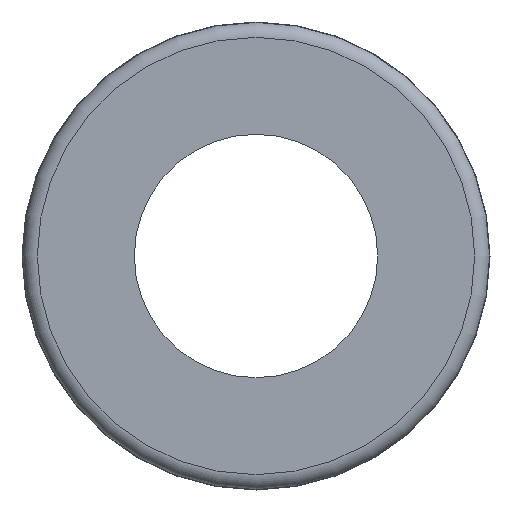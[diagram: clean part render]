
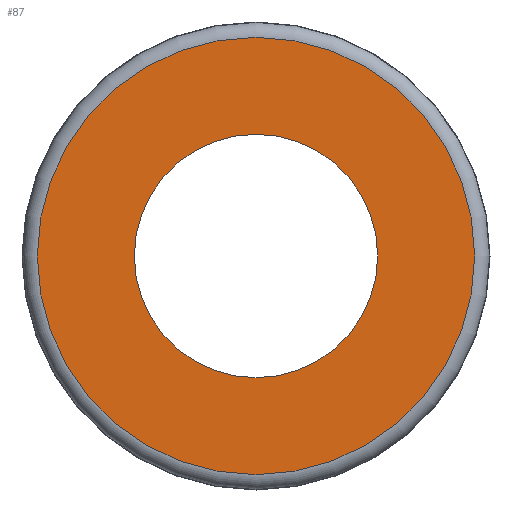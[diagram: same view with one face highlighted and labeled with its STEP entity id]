
A CAD part, front view. The second image highlights one B-rep face of the part: STEP entity #87.
In plain terms, the highlighted planar face has unit normal (0, -1, 0).
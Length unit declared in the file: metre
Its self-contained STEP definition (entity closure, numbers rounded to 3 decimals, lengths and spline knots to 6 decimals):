
#87 = ADVANCED_FACE( '', ( #127, #128 ), #129, .T. );
#127 = FACE_BOUND( '', #183, .T. );
#128 = FACE_OUTER_BOUND( '', #184, .T. );
#129 = PLANE( '', #185 );
#183 = EDGE_LOOP( '', ( #259 ) );
#184 = EDGE_LOOP( '', ( #260 ) );
#185 = AXIS2_PLACEMENT_3D( '', #261, #262, #263 );
#259 = ORIENTED_EDGE( '', *, *, #314, .F. );
#260 = ORIENTED_EDGE( '', *, *, #302, .T. );
#261 = CARTESIAN_POINT( '', ( 0., 0., 0. ) );
#262 = DIRECTION( '', ( 0., -1., 0. ) );
#263 = DIRECTION( '', ( 0., 0., -1. ) );
#302 = EDGE_CURVE( '', #323, #323, #324, .T. );
#314 = EDGE_CURVE( '', #343, #343, #344, .T. );
#323 = VERTEX_POINT( '', #359 );
#324 = CIRCLE( '', #360, 0.058397 );
#343 = VERTEX_POINT( '', #379 );
#344 = CIRCLE( '', #380, 0.0325 );
#359 = CARTESIAN_POINT( '', ( 0., 0., -0.058397 ) );
#360 = AXIS2_PLACEMENT_3D( '', #396, #397, #398 );
#379 = CARTESIAN_POINT( '', ( 0., 0., -0.0325 ) );
#380 = AXIS2_PLACEMENT_3D( '', #426, #427, #428 );
#396 = CARTESIAN_POINT( '', ( 0., 0., 0. ) );
#397 = DIRECTION( '', ( 0., -1., 0. ) );
#398 = DIRECTION( '', ( 0., 0., -1. ) );
#426 = CARTESIAN_POINT( '', ( 0., 0., 0. ) );
#427 = DIRECTION( '', ( 0., -1., 0. ) );
#428 = DIRECTION( '', ( 0., 0., -1. ) );
